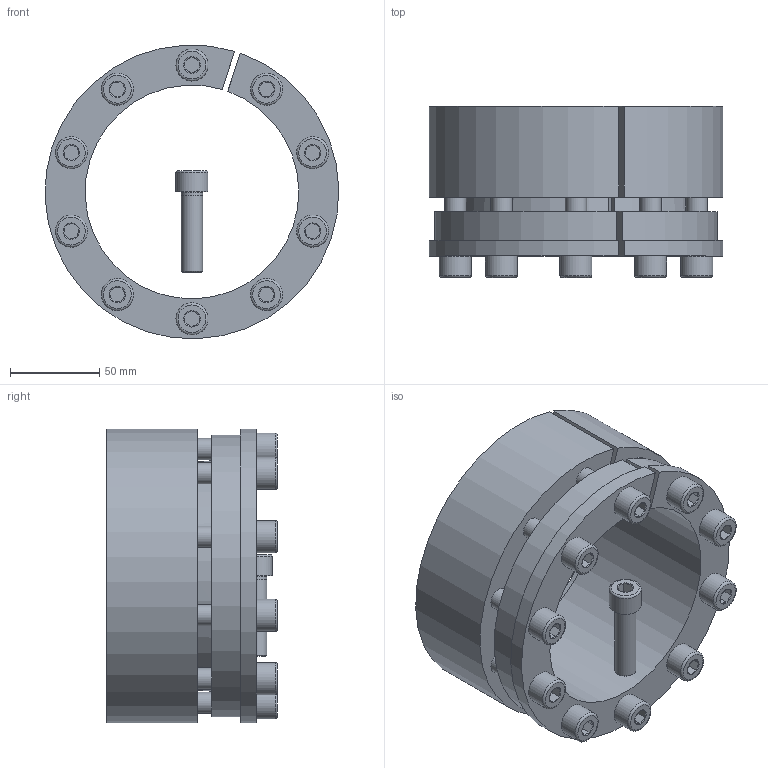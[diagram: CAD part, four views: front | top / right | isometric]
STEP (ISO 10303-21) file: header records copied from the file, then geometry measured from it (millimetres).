
FILE_DESCRIPTION( ( 'Unknown' ), '1' );
FILE_NAME( 'C:/Dokumente und Einstellungen/Sven/Desktop/homepage/cad - homepage/KBS70/KBS 70 - 120 x 165.stp', 'Unknown', ( 'Unknown' ), ( 'Unknown' ), 'XStep 1.0', 'Unknown', ' ' );
FILE_SCHEMA( ( 'automotive_design' ) );
Length unit declared in the file: millimetre
Products named in the file (3): Assem1; KBS 70 - 120 x 165; ISO EN DIN 4762 M12x45
Bounding box: 164.9 x 96 x 164.84 mm (x, y, z)
Volume: 1405685.8 mm3; surface area: 308527 mm2
Topology: 13 solids, 13 shells, 343 faces, 703 edges, 430 vertices
Faces by surface type: plane 148, cylinder 92, cone 81, torus 22
Full cylindrical faces by diameter (mm): 11 x11, 12 x62, 18 x11
Entity records: 1990 total; most frequent: CARTESIAN_POINT 327, DIRECTION 312, ORIENTED_EDGE 222, AXIS2_PLACEMENT_3D 140, EDGE_LOOP 130, EDGE_CURVE 111, VERTEX_POINT 87, FACE_OUTER_BOUND 85
